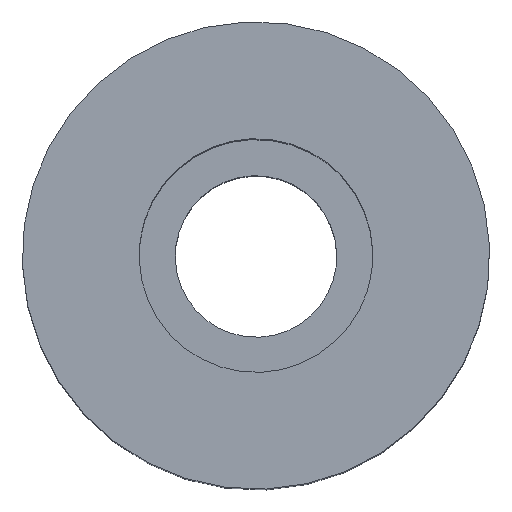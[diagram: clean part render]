
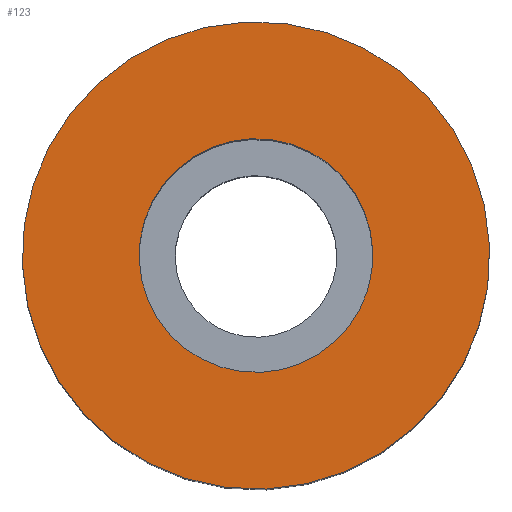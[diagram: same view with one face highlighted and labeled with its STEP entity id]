
A CAD part, top view. The second image highlights one B-rep face of the part: STEP entity #123.
In plain terms, the highlighted planar face has unit normal (0, 0, 1).
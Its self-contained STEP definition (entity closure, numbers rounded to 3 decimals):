
#123=ADVANCED_FACE('NONE',(#248,#249),#250,.T.);
#248=FACE_OUTER_BOUND('',#374,.T.);
#249=FACE_BOUND('',#375,.T.);
#250=PLANE('',#376);
#374=EDGE_LOOP('',(#643,#644));
#375=EDGE_LOOP('',(#645,#646));
#376=AXIS2_PLACEMENT_3D('',#647,#648,#649);
#643=ORIENTED_EDGE('',*,*,#727,.F.);
#644=ORIENTED_EDGE('',*,*,#808,.F.);
#645=ORIENTED_EDGE('',*,*,#806,.T.);
#646=ORIENTED_EDGE('',*,*,#732,.T.);
#647=CARTESIAN_POINT('',(-1.617,-0.67,0.0));
#648=DIRECTION('',(0.0,0.0,1.0));
#649=DIRECTION('',(1.0,-0.0,0.0));
#727=EDGE_CURVE('NONE',#856,#857,#858,.T.);
#732=EDGE_CURVE('NONE',#865,#866,#867,.T.);
#806=EDGE_CURVE('NONE',#866,#865,#963,.T.);
#808=EDGE_CURVE('NONE',#857,#856,#965,.T.);
#856=VERTEX_POINT('NONE',#1021);
#857=VERTEX_POINT('NONE',#1022);
#858=CIRCLE('',#1023,3.5);
#865=VERTEX_POINT('NONE',#1032);
#866=VERTEX_POINT('NONE',#1033);
#867=CIRCLE('',#1034,1.75);
#963=CIRCLE('',#1154,1.75);
#965=CIRCLE('',#1156,3.5);
#1021=CARTESIAN_POINT('',(1.341,-3.233,0.0));
#1022=CARTESIAN_POINT('',(-1.341,3.233,0.0));
#1023=AXIS2_PLACEMENT_3D('',#1199,#1200,#1201);
#1032=CARTESIAN_POINT('',(-0.67,1.617,0.0));
#1033=CARTESIAN_POINT('',(0.67,-1.617,0.0));
#1034=AXIS2_PLACEMENT_3D('',#1207,#1208,#1209);
#1154=AXIS2_PLACEMENT_3D('',#1309,#1310,#1311);
#1156=AXIS2_PLACEMENT_3D('',#1312,#1313,#1314);
#1199=CARTESIAN_POINT('',(0.0,0.0,0.0));
#1200=DIRECTION('',(0.0,0.0,-1.0));
#1201=DIRECTION('',(0.383,-0.924,0.0));
#1207=CARTESIAN_POINT('',(0.0,0.0,0.0));
#1208=DIRECTION('',(0.0,0.0,-1.0));
#1209=DIRECTION('',(0.383,-0.924,0.0));
#1309=CARTESIAN_POINT('',(0.0,0.0,0.0));
#1310=DIRECTION('',(0.0,0.0,-1.0));
#1311=DIRECTION('',(0.383,-0.924,0.0));
#1312=CARTESIAN_POINT('',(0.0,0.0,0.0));
#1313=DIRECTION('',(0.0,0.0,-1.0));
#1314=DIRECTION('',(0.383,-0.924,0.0));
